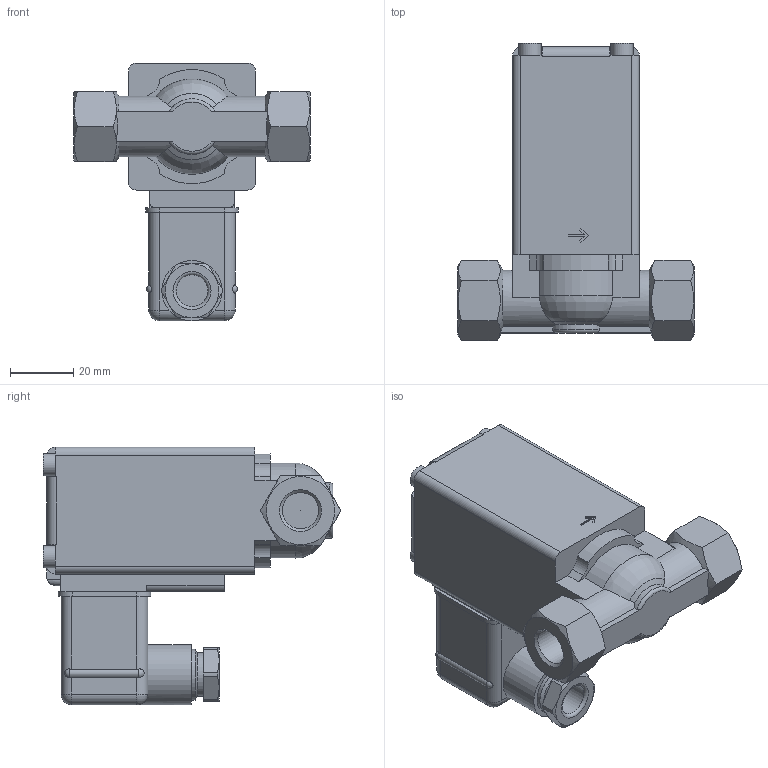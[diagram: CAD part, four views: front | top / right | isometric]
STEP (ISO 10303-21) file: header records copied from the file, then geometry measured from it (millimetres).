
FILE_DESCRIPTION(/* description */ ('STEP AP214'),/* implementation_level */ '2;1');
FILE_NAME(/* name */ '0256-022688-2_2-way_Solenoid_Valve',/* time_stamp */ '2024-08-05T17:10:19+02:00',/* author */ ('License CC BY-ND 4.0'),/* organization */ ('CADENAS'),/* preprocessor_version */ 'ST-DEVELOPER v19.3',/* originating_system */ 'PARTsolutions',/* authorisation */ ' ');
FILE_SCHEMA (('AUTOMOTIVE_DESIGN {1 0 10303 214 3 1 1}'));
Length unit declared in the file: millimetre
Products named in the file (1): 0256-022688-2/2-way Solenoid Valve
Bounding box: 74.5 x 93.8 x 81.2 mm (x, y, z)
Volume: 173963.4 mm3; surface area: 27041.1 mm2
Topology: 1 solids, 1 shells, 226 faces, 585 edges, 373 vertices
Faces by surface type: plane 129, cylinder 66, cone 16, sphere 10, torus 5
Full cylindrical faces by diameter (mm): 0.2 x2, 7 x5, 10 x1, 11.445 x2, 13.7 x1, 16 x1, 19 x1
Entity records: 8488 total; most frequent: CARTESIAN_POINT 1505, ORIENTED_EDGE 1118, DIRECTION 1086, EDGE_CURVE 559, AXIS2_PLACEMENT_3D 384, VERTEX_POINT 371, LINE 318, VECTOR 318
